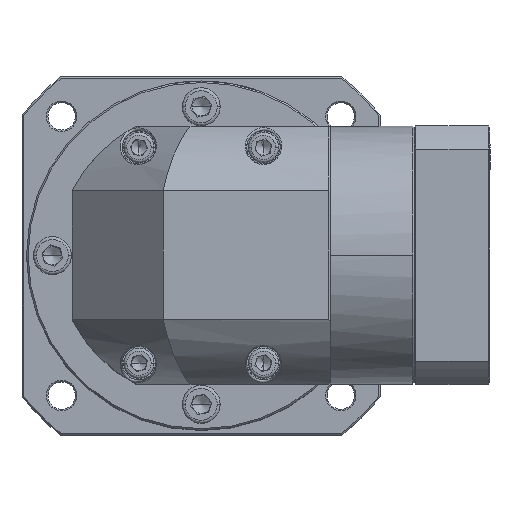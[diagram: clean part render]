
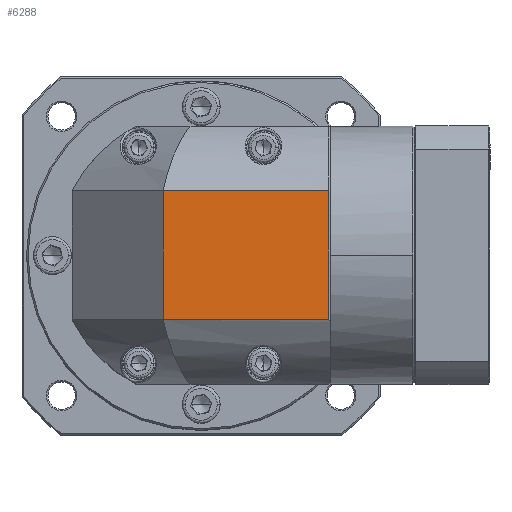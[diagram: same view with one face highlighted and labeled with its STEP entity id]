
A CAD part, top view. The second image highlights one B-rep face of the part: STEP entity #6288.
In plain terms, the highlighted planar face has unit normal (0, 0, 1).
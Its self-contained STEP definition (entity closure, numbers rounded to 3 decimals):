
#4967 = LINE ( 'NONE', #108046, #132582 ) ;
#6288 = ADVANCED_FACE ( 'NONE', ( #23407 ), #87812, .T. ) ;
#11416 = LINE ( 'NONE', #136177, #30237 ) ;
#16251 = ORIENTED_EDGE ( 'NONE', *, *, #70225, .F. ) ;
#22259 = AXIS2_PLACEMENT_3D ( 'NONE', #89213, #132983, #67808 ) ;
#23407 = FACE_OUTER_BOUND ( 'NONE', #110798, .T. ) ;
#25068 = CARTESIAN_POINT ( 'NONE',  ( 68.685, 135.652, 73.502 ) ) ;
#30237 = VECTOR ( 'NONE', #125667, 1000. ) ;
#31800 = EDGE_CURVE ( 'NONE', #117713, #94044, #67607, .T. ) ;
#42041 = ORIENTED_EDGE ( 'NONE', *, *, #31800, .T. ) ;
#51907 = DIRECTION ( 'NONE',  ( 0., 1., 0. ) ) ;
#59024 = LINE ( 'NONE', #128494, #70912 ) ;
#65849 = VECTOR ( 'NONE', #51907, 1000. ) ;
#67607 = LINE ( 'NONE', #74245, #65849 ) ;
#67808 = DIRECTION ( 'NONE',  ( 1., 0., 0. ) ) ;
#69380 = CARTESIAN_POINT ( 'NONE',  ( 68.685, 93.226, 73.502 ) ) ;
#70225 = EDGE_CURVE ( 'NONE', #128910, #105984, #4967, .T. ) ;
#70912 = VECTOR ( 'NONE', #85687, 1000. ) ;
#73892 = CARTESIAN_POINT ( 'NONE',  ( 14.185, 93.226, 73.502 ) ) ;
#74245 = CARTESIAN_POINT ( 'NONE',  ( 68.685, 114.439, 73.502 ) ) ;
#74599 = EDGE_CURVE ( 'NONE', #117713, #128910, #59024, .T. ) ;
#78254 = EDGE_CURVE ( 'NONE', #105984, #94044, #11416, .T. ) ;
#85687 = DIRECTION ( 'NONE',  ( -1., 0., 0. ) ) ;
#87812 = PLANE ( 'NONE',  #22259 ) ;
#89213 = CARTESIAN_POINT ( 'NONE',  ( 26.685, 114.439, 73.502 ) ) ;
#94044 = VERTEX_POINT ( 'NONE', #25068 ) ;
#99029 = DIRECTION ( 'NONE',  ( 0., 1., 0. ) ) ;
#99626 = ORIENTED_EDGE ( 'NONE', *, *, #78254, .F. ) ;
#105984 = VERTEX_POINT ( 'NONE', #139076 ) ;
#108046 = CARTESIAN_POINT ( 'NONE',  ( 14.185, 114.439, 73.502 ) ) ;
#110798 = EDGE_LOOP ( 'NONE', ( #99626, #16251, #112418, #42041 ) ) ;
#112418 = ORIENTED_EDGE ( 'NONE', *, *, #74599, .F. ) ;
#117713 = VERTEX_POINT ( 'NONE', #69380 ) ;
#125667 = DIRECTION ( 'NONE',  ( 1., 0., 0. ) ) ;
#128494 = CARTESIAN_POINT ( 'NONE',  ( -31.315, 93.226, 73.502 ) ) ;
#128910 = VERTEX_POINT ( 'NONE', #73892 ) ;
#132582 = VECTOR ( 'NONE', #99029, 1000. ) ;
#132983 = DIRECTION ( 'NONE',  ( 0., 0., 1. ) ) ;
#136177 = CARTESIAN_POINT ( 'NONE',  ( -31.315, 135.652, 73.502 ) ) ;
#139076 = CARTESIAN_POINT ( 'NONE',  ( 14.185, 135.652, 73.502 ) ) ;
